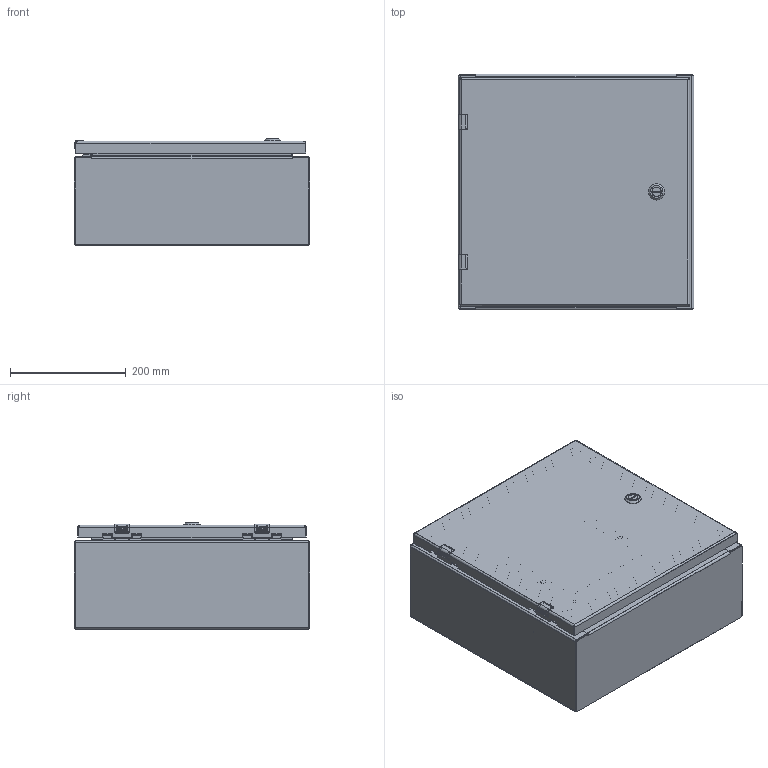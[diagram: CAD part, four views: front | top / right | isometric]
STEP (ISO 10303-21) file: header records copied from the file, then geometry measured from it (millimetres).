
FILE_DESCRIPTION((''),'2;1');
FILE_NAME('MODEL-306_ASM','2023-02-24T13:19:58',('mikek'),('SAGINAW CONTROL & ENGINEERING'),'CREO PARAMETRIC BY PTC INC, 2021284','CREO PARAMETRIC BY PTC INC, 2021284','');
FILE_SCHEMA(('AUTOMOTIVE_DESIGN { 1 0 10303 214 1 1 1 1 }'));
Length unit declared in the file: inch
Products named in the file (28): MODEL-306-BDY; MODEL-306-TP; MODEL-306-BTM; MODEL-306-DR; 100837; 100882; 111541; 100794_SHAFT; 100794_INSERT; 100794_CAM; 100794_NUT; 100794_SCREW; 100794_ASM; MODEL-306-DOOR-GASKET; 126392; 126392_ASM; 126395; 102483; 101226; 101389; 102140; MODEL-306-DOOR-ASSY_ASM; 101651; 122191; SUBPANEL; 100904; SUBPANEL-SUBASSEMBLY_ASM; MODEL-306_ASM
Assembly tree (47 placements, depth 4):
  MODEL-306_ASM
    MODEL-306-BDY
    MODEL-306-TP
    MODEL-306-BTM
    MODEL-306-DOOR-ASSY_ASM
      MODEL-306-DR
      100837  x3
      100882  x2
      111541
      100794_ASM
        100794_SHAFT
        100794_INSERT
        100794_CAM
        100794_NUT
        100794_SCREW
      MODEL-306-DOOR-GASKET
      126392_ASM  x2
        126392
      126395  x2
      102483  x6
      101226  x2
      101389  x2
      102140  x2
    100837
    101651  x4
    122191
    SUBPANEL-SUBASSEMBLY_ASM
      SUBPANEL
      100904  x4
Bounding box: 406.4 x 406.4 x 183.53 mm (x, y, z)
Volume: 1886765.2 mm3; surface area: 1739023.9 mm2
Topology: 44 solids, 44 shells, 2503 faces, 6377 edges, 4008 vertices
Faces by surface type: plane 1070, cylinder 664, bspline 432, torus 197, cone 88, sphere 52
Entity records: 80810 total; most frequent: CARTESIAN_POINT 23513, ORIENTED_EDGE 8266, DIRECTION 7702, PRESENTATION_STYLE_ASSIGNMENT 4330, EDGE_CURVE 4133, STYLED_ITEM 4055, CURVE_STYLE 3971, AXIS2_PLACEMENT_3D 2799
